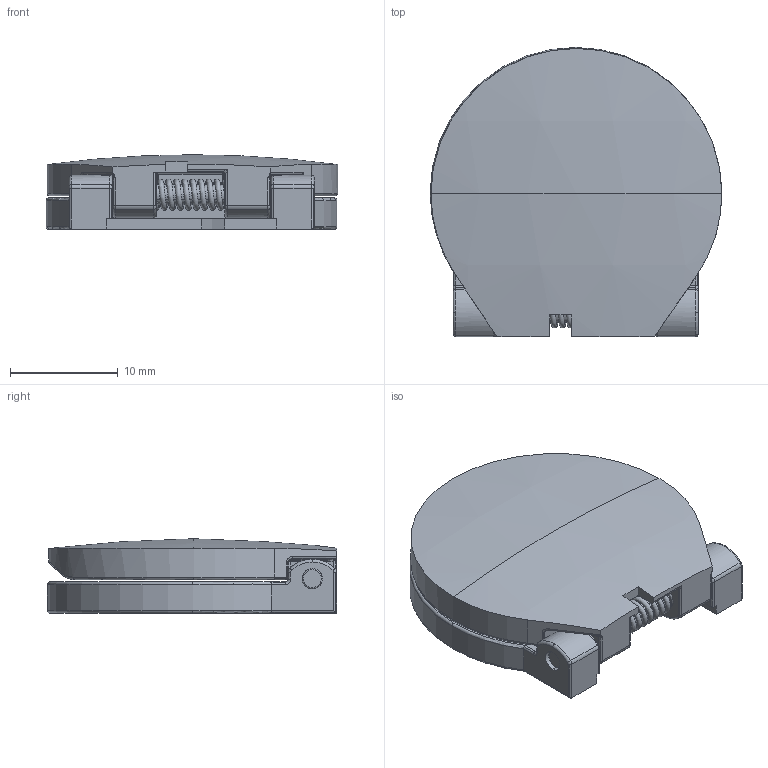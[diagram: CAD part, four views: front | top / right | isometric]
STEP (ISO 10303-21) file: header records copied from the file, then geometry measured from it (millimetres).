
FILE_DESCRIPTION (( 'STEP AP214' ), '1' );
FILE_NAME ('0130-001.STEP', '2025-02-13T10:44:42', ( '' ), ( '' ), 'SwSTEP 2.0', 'SolidWorks 2024', '' );
FILE_SCHEMA (( 'AUTOMOTIVE_DESIGN' ));
Length unit declared in the file: millimetre
Products named in the file (6): 0130-001-4.ipt; 0130-001; 0130-001-1.ipt; 0130-001-3.ipt; 0130-001-2.ipt; 0130-001.iam
Assembly tree (5 placements, depth 3):
  0130-001
    0130-001.iam
      0130-001-1.ipt
      0130-001-2.ipt
      0130-001-3.ipt
      0130-001-4.ipt
Bounding box: 27.02 x 26.8 x 6.9 mm (x, y, z)
Volume: 2367.5 mm3; surface area: 3208.9 mm2
Topology: 4 solids, 4 shells, 261 faces, 648 edges, 395 vertices
Faces by surface type: cylinder 131, torus 50, plane 47, bspline 19, sphere 10, cone 4
Entity records: 17106 total; most frequent: CARTESIAN_POINT 10786, DIRECTION 1337, ORIENTED_EDGE 1292, EDGE_CURVE 646, AXIS2_PLACEMENT_3D 552, VERTEX_POINT 395, CIRCLE 301, EDGE_LOOP 277
